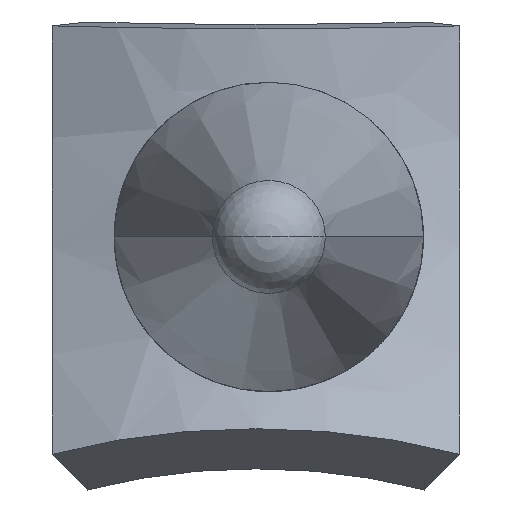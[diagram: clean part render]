
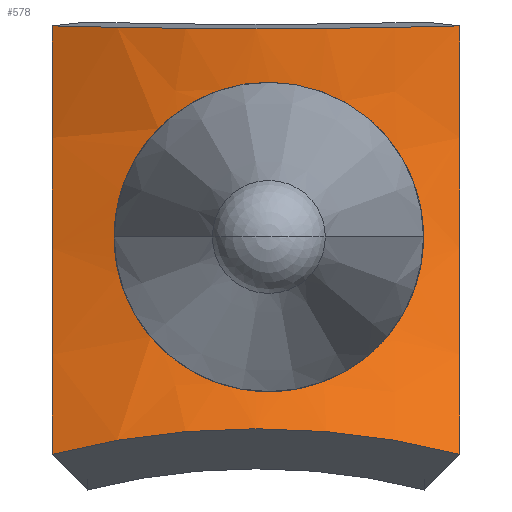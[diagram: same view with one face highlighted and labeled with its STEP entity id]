
A CAD part, front view. The second image highlights one B-rep face of the part: STEP entity #578.
In plain terms, the highlighted toroidal (fillet/blend) face has major radius 14.757 mm and minor radius 5.76 mm.
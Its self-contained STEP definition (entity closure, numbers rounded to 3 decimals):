
#12=CARTESIAN_POINT('',(-2.,37.636,0.));
#13=CARTESIAN_POINT('',(-2.,37.676,0.166));
#14=CARTESIAN_POINT('',(-1.958,37.733,0.502));
#15=CARTESIAN_POINT('',(-1.767,37.747,0.984));
#16=CARTESIAN_POINT('',(-1.45,37.707,1.412));
#17=CARTESIAN_POINT('',(-1.025,37.645,1.746));
#18=CARTESIAN_POINT('',(-0.52,37.598,1.955));
#19=CARTESIAN_POINT('',(0.,37.589,2.024));
#20=CARTESIAN_POINT('',(0.552,37.631,1.949));
#21=CARTESIAN_POINT('',(1.051,37.71,1.73));
#22=CARTESIAN_POINT('',(1.469,37.798,1.392));
#23=CARTESIAN_POINT('',(1.779,37.856,0.96));
#24=CARTESIAN_POINT('',(1.96,37.853,0.49));
#25=CARTESIAN_POINT('',(2.,37.801,0.162));
#26=CARTESIAN_POINT('',(2.,37.762,0.));
#169=CARTESIAN_POINT('',(2.,37.762,0.));
#170=CARTESIAN_POINT('',(2.,37.724,-0.16));
#171=CARTESIAN_POINT('',(1.963,37.622,-0.484));
#172=CARTESIAN_POINT('',(1.775,37.387,-0.967));
#173=CARTESIAN_POINT('',(1.487,37.128,-1.366));
#174=CARTESIAN_POINT('',(1.123,36.884,-1.676));
#175=CARTESIAN_POINT('',(0.724,36.696,-1.883));
#176=CARTESIAN_POINT('',(0.281,36.578,-1.996));
#177=CARTESIAN_POINT('',(-0.149,36.551,
-2.011));
#178=CARTESIAN_POINT('',(-0.61,36.615,
-1.925));
#179=CARTESIAN_POINT('',(-1.059,36.778,-1.72));
#180=CARTESIAN_POINT('',(-1.448,37.003,-1.41));
#181=CARTESIAN_POINT('',(-1.76,37.258,
-0.997));
#182=CARTESIAN_POINT('',(-1.958,37.488,
-0.507));
#183=CARTESIAN_POINT('',(-2.,37.595,-0.169));
#184=CARTESIAN_POINT('',(-2.,37.636,0.));
#237=CARTESIAN_POINT('',(-2.801,28.6,2.188));
#238=DIRECTION('',(1.,0.,0.));
#239=DIRECTION('',(0.,0.855,-0.519));
#240=AXIS2_PLACEMENT_3D('',#237,#238,#239);
#242=CARTESIAN_POINT('',(-0.166,41.216,
-5.468));
#243=DIRECTION('',(0.,0.519,0.855));
#244=DIRECTION('',(-0.457,-0.76,0.461));
#245=AXIS2_PLACEMENT_3D('',#242,#243,#244);
#260=CARTESIAN_POINT('',(2.469,28.6,2.188));
#261=DIRECTION('',(1.,0.,0.));
#262=DIRECTION('',(0.,0.855,-0.519));
#263=AXIS2_PLACEMENT_3D('',#260,#261,#262);
#265=CARTESIAN_POINT('',(-0.166,43.334,3.017));
#266=DIRECTION('',(0.,-0.056,0.998));
#267=DIRECTION('',(-0.457,-0.888,-0.05));
#268=AXIS2_PLACEMENT_3D('',#265,#266,#267);
#345=CARTESIAN_POINT('',(-2.801,36.837,-2.811));
#346=CARTESIAN_POINT('',(2.469,36.837,-2.811));
#347=VERTEX_POINT('',#345);
#348=VERTEX_POINT('',#346);
#353=CARTESIAN_POINT('',(-2.801,38.22,2.729));
#354=CARTESIAN_POINT('',(2.469,38.22,2.729));
#355=VERTEX_POINT('',#353);
#356=VERTEX_POINT('',#354);
#361=VERTEX_POINT('',#169);
#362=VERTEX_POINT('',#184);
#559=CARTESIAN_POINT('',(-0.166,28.6,2.188));
#560=DIRECTION('',(1.,0.,0.));
#561=DIRECTION('',(0.,-0.855,0.519));
#562=AXIS2_PLACEMENT_3D('',#559,#560,#561);
#563=TOROIDAL_SURFACE('',#562,14.757,5.76);
#565=ORIENTED_EDGE('',*,*,#564,.F.);
#567=ORIENTED_EDGE('',*,*,#566,.T.);
#569=ORIENTED_EDGE('',*,*,#568,.T.);
#571=ORIENTED_EDGE('',*,*,#570,.F.);
#572=EDGE_LOOP('',(#565,#567,#569,#571));
#573=FACE_OUTER_BOUND('',#572,.F.);
#574=ORIENTED_EDGE('',*,*,#544,.F.);
#575=ORIENTED_EDGE('',*,*,#396,.F.);
#576=EDGE_LOOP('',(#574,#575));
#577=FACE_BOUND('',#576,.F.);
#578=ADVANCED_FACE('',(#573,#577),#563,.T.);
#27=B_SPLINE_CURVE_WITH_KNOTS('',3,(#12,#13,#14,#15,#16,#17,#18,#19,#20,#21,#22,
#23,#24,#25,#26),.UNSPECIFIED.,.F.,.F.,(4,1,1,1,1,1,1,1,1,1,1,1,4),(0.,
0.083,0.167,0.25,0.333,0.417,
0.5,0.583,0.667,0.75,0.833,
0.917,1.),.UNSPECIFIED.);
#185=B_SPLINE_CURVE_WITH_KNOTS('',3,(#169,#170,#171,#172,#173,#174,#175,#176,
#177,#178,#179,#180,#181,#182,#183,#184),.UNSPECIFIED.,.F.,.F.,(4,1,1,1,1,1,1,1,
1,1,1,1,1,4),(0.,0.077,0.154,0.231,
0.308,0.385,0.462,0.538,
0.615,0.692,0.769,0.846,
0.923,1.),.UNSPECIFIED.);
#241=CIRCLE('',#240,9.635);
#246=CIRCLE('',#245,5.76);
#264=CIRCLE('',#263,9.635);
#269=CIRCLE('',#268,5.76);
#396=EDGE_CURVE('',#362,#361,#27,.T.);
#544=EDGE_CURVE('',#361,#362,#185,.T.);
#564=EDGE_CURVE('',#347,#348,#246,.T.);
#566=EDGE_CURVE('',#347,#355,#241,.T.);
#568=EDGE_CURVE('',#355,#356,#269,.T.);
#570=EDGE_CURVE('',#348,#356,#264,.T.);
